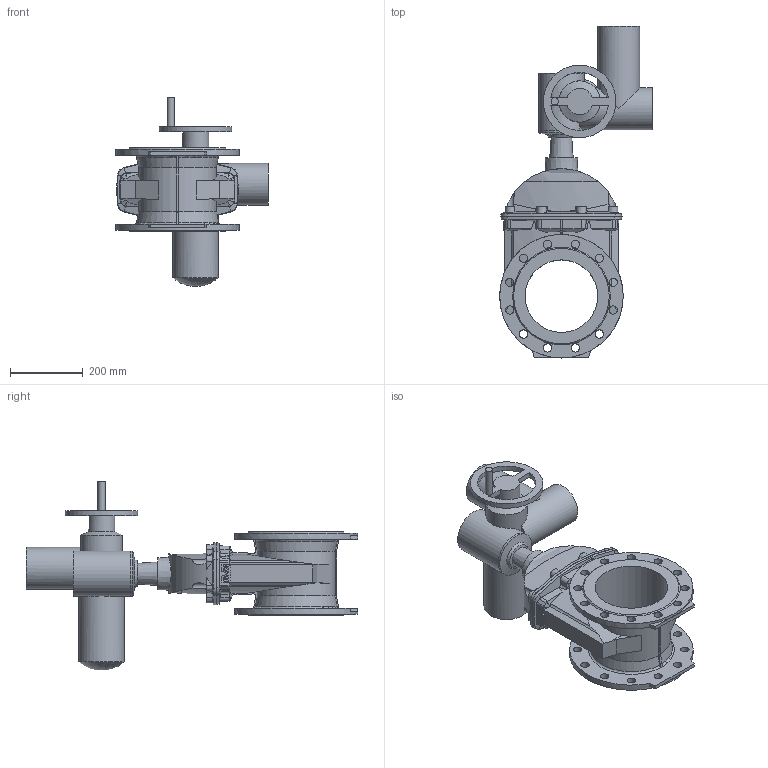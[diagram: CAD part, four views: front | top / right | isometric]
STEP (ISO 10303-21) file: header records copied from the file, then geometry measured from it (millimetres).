
FILE_DESCRIPTION (( 'STEP AP203' ), '1' );
FILE_NAME ('O_15_42_DN200_X1XXX099_SA10.2_AA0.step', '2017-03-20T12:40:36', ( 'Windows User' ), ( 'AVK' ), 'SwSTEP 2.0', 'SolidWorks 2012', '' );
FILE_SCHEMA (( 'CONFIG_CONTROL_DESIGN' ));
Length unit declared in the file: inch
Products named in the file (1): O_15_42_DN200_X1XXX099_SA10.2_AA0
Bounding box: 420 x 914 x 520.49 mm (x, y, z)
Volume: 21493094 mm3; surface area: 1211735.9 mm2
Topology: 1 solids, 1 shells, 373 faces, 1078 edges, 702 vertices
Faces by surface type: plane 166, cylinder 103, cone 87, sphere 11, bspline 4, torus 2
Full cylindrical faces by diameter (mm): 20 x1, 23 x24, 72.112 x1, 113.905 x1, 115 x2, 125 x3, 200 x2, 340 x2
Entity records: 13779 total; most frequent: CARTESIAN_POINT 4658, ORIENTED_EDGE 1954, DIRECTION 1729, EDGE_CURVE 977, VERTEX_POINT 661, AXIS2_PLACEMENT_3D 624, VECTOR 481, LINE 481
